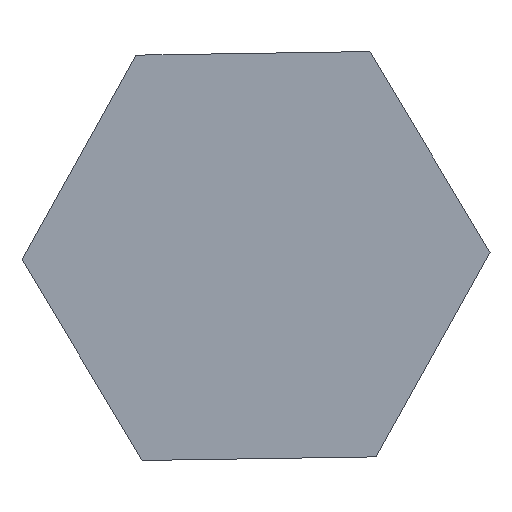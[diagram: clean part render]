
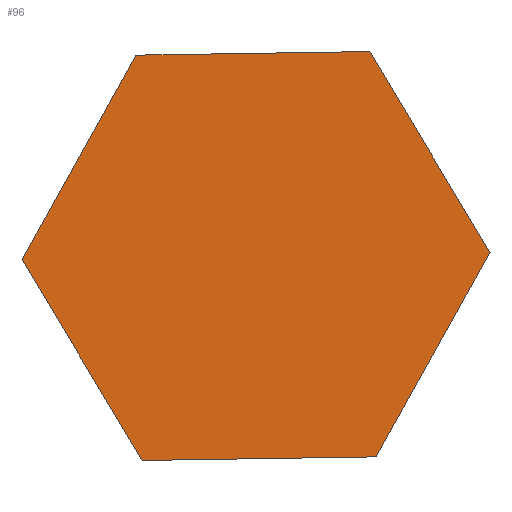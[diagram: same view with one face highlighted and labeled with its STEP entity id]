
A CAD part, front view. The second image highlights one B-rep face of the part: STEP entity #96.
In plain terms, the highlighted planar face has unit normal (0, -1, 0).
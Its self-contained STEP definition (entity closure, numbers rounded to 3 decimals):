
#5 = VECTOR ( 'NONE', #596, 1000. ) ;
#11 = ORIENTED_EDGE ( 'NONE', *, *, #764, .T. ) ;
#12 = CARTESIAN_POINT ( 'NONE',  ( -7.923, -14.6, -24.073 ) ) ;
#28 = VERTEX_POINT ( 'NONE', #768 ) ;
#42 = CARTESIAN_POINT ( 'NONE',  ( 16.279, -14.6, -9.6 ) ) ;
#67 = CARTESIAN_POINT ( 'NONE',  ( 8.356, -14.6, -23.823 ) ) ;
#89 = LINE ( 'NONE', #12, #333 ) ;
#96 = ADVANCED_FACE ( 'NONE', ( #217 ), #141, .T. ) ;
#101 = VECTOR ( 'NONE', #257, 1000. ) ;
#109 = EDGE_LOOP ( 'NONE', ( #265, #647, #11, #593, #563, #644 ) ) ;
#141 = PLANE ( 'NONE',  #152 ) ;
#152 = AXIS2_PLACEMENT_3D ( 'NONE', #441, #852, #993 ) ;
#166 = VECTOR ( 'NONE', #396, 1000. ) ;
#189 = EDGE_CURVE ( 'NONE', #527, #589, #400, .T. ) ;
#211 = CARTESIAN_POINT ( 'NONE',  ( -8.356, -14.6, 4.123 ) ) ;
#217 = FACE_OUTER_BOUND ( 'NONE', #109, .T. ) ;
#257 = DIRECTION ( 'NONE',  ( 0.487, 0., 0.874 ) ) ;
#261 = LINE ( 'NONE', #880, #574 ) ;
#265 = ORIENTED_EDGE ( 'NONE', *, *, #854, .T. ) ;
#283 = EDGE_CURVE ( 'NONE', #990, #905, #809, .T. ) ;
#287 = VECTOR ( 'NONE', #433, 1000. ) ;
#291 = LINE ( 'NONE', #849, #5 ) ;
#333 = VECTOR ( 'NONE', #409, 1000. ) ;
#343 = DIRECTION ( 'NONE',  ( -1., 0., -0.015 ) ) ;
#396 = DIRECTION ( 'NONE',  ( 0.513, 0., -0.858 ) ) ;
#400 = LINE ( 'NONE', #477, #166 ) ;
#409 = DIRECTION ( 'NONE',  ( 1., 0., 0.015 ) ) ;
#433 = DIRECTION ( 'NONE',  ( -0.513, 0., 0.858 ) ) ;
#441 = CARTESIAN_POINT ( 'NONE',  ( 0., -14.6, 0. ) ) ;
#477 = CARTESIAN_POINT ( 'NONE',  ( -16.279, -14.6, -10.1 ) ) ;
#483 = EDGE_CURVE ( 'NONE', #905, #28, #682, .T. ) ;
#486 = VERTEX_POINT ( 'NONE', #211 ) ;
#527 = VERTEX_POINT ( 'NONE', #794 ) ;
#563 = ORIENTED_EDGE ( 'NONE', *, *, #483, .T. ) ;
#574 = VECTOR ( 'NONE', #343, 1000. ) ;
#589 = VERTEX_POINT ( 'NONE', #1025 ) ;
#593 = ORIENTED_EDGE ( 'NONE', *, *, #283, .T. ) ;
#596 = DIRECTION ( 'NONE',  ( -0.487, 0., -0.874 ) ) ;
#640 = EDGE_CURVE ( 'NONE', #28, #486, #261, .T. ) ;
#644 = ORIENTED_EDGE ( 'NONE', *, *, #640, .T. ) ;
#647 = ORIENTED_EDGE ( 'NONE', *, *, #189, .T. ) ;
#682 = LINE ( 'NONE', #1013, #287 ) ;
#764 = EDGE_CURVE ( 'NONE', #589, #990, #89, .T. ) ;
#768 = CARTESIAN_POINT ( 'NONE',  ( 7.923, -14.6, 4.373 ) ) ;
#794 = CARTESIAN_POINT ( 'NONE',  ( -16.279, -14.6, -10.1 ) ) ;
#809 = LINE ( 'NONE', #830, #101 ) ;
#830 = CARTESIAN_POINT ( 'NONE',  ( 8.356, -14.6, -23.823 ) ) ;
#849 = CARTESIAN_POINT ( 'NONE',  ( -8.356, -14.6, 4.123 ) ) ;
#852 = DIRECTION ( 'NONE',  ( 0., -1., 0. ) ) ;
#854 = EDGE_CURVE ( 'NONE', #486, #527, #291, .T. ) ;
#880 = CARTESIAN_POINT ( 'NONE',  ( 7.923, -14.6, 4.373 ) ) ;
#905 = VERTEX_POINT ( 'NONE', #42 ) ;
#990 = VERTEX_POINT ( 'NONE', #67 ) ;
#993 = DIRECTION ( 'NONE',  ( 0., 0., -1. ) ) ;
#1013 = CARTESIAN_POINT ( 'NONE',  ( 16.279, -14.6, -9.6 ) ) ;
#1025 = CARTESIAN_POINT ( 'NONE',  ( -7.923, -14.6, -24.073 ) ) ;
